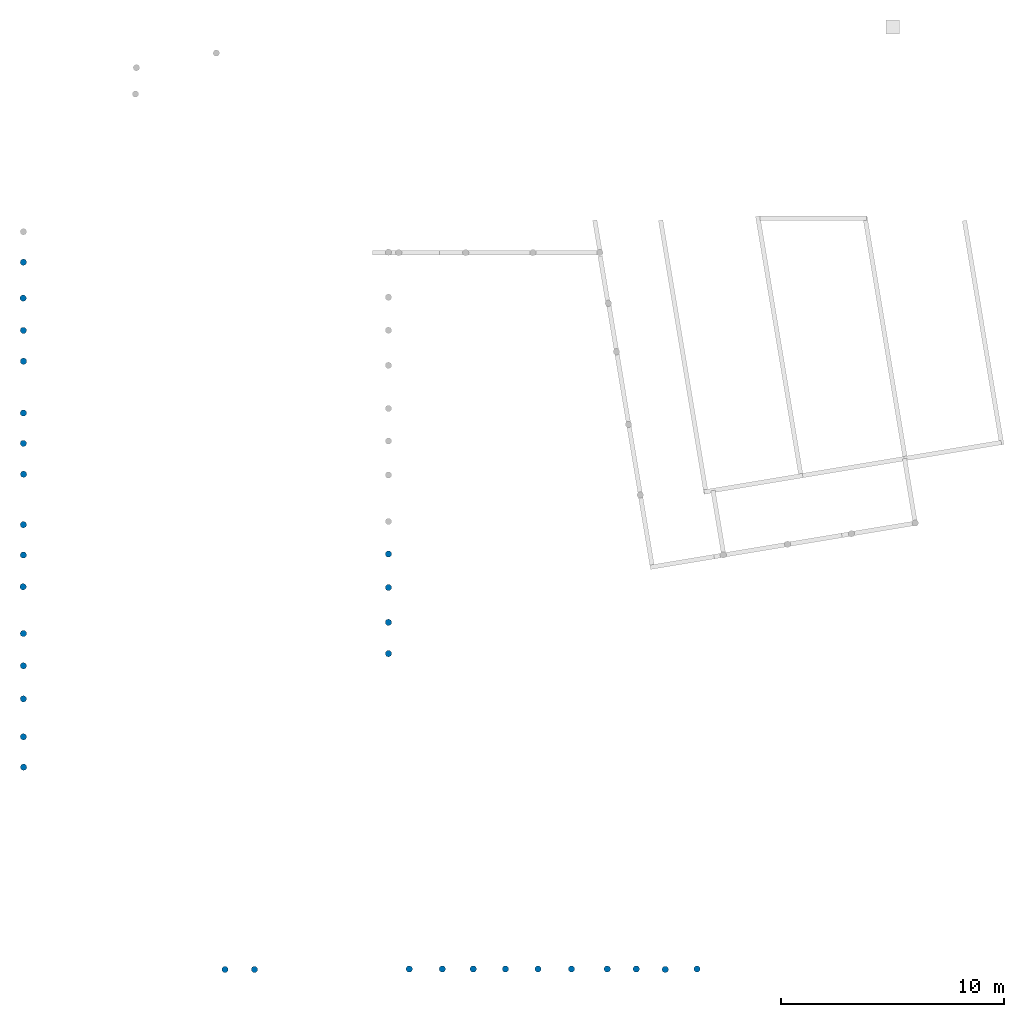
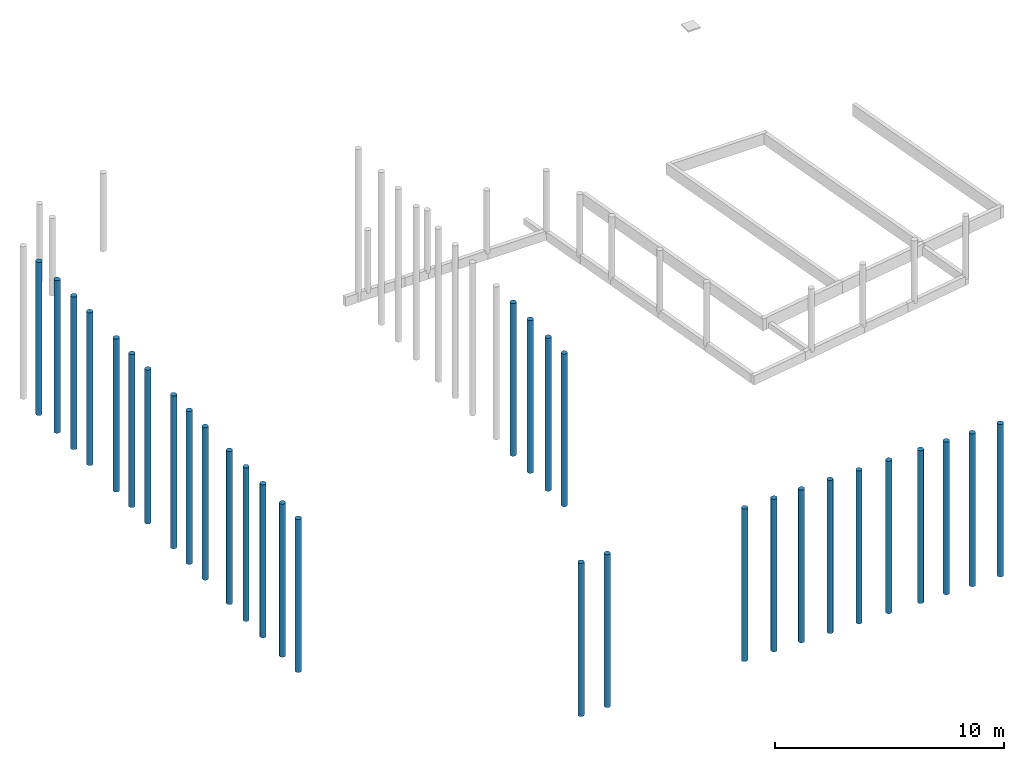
# One storey, part 1 of 4: 31 columns.
"""IFC4 building model written with IfcOpenShell, lengths in metres."""

from ifc_helpers import new_model, entity, si_unit, converted_unit, derived_unit, direction, frame, origin, place, context, subcontext, project, spatial, arc, indexed_curve, outline, extrude, source, transform, mapped, material, type_object, type_shapes, element, save


model = new_model("IFC4")

# Units and contexts
model_context = context("Model", 3, precision=1e-05, world=origin(), true_north=direction((6.123031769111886e-17, 1.0)))
body_context = subcontext(model_context, "Body", "Model", "MODEL_VIEW")
ifc_project = project(units=[si_unit("LENGTHUNIT", "METRE"), si_unit("AREAUNIT", "SQUARE_METRE"), si_unit("VOLUMEUNIT", "CUBIC_METRE"), converted_unit("PLANEANGLEUNIT", "DEGREE", entity("IfcRatioMeasure", 0.017453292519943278), si_unit("PLANEANGLEUNIT", "RADIAN"), dimensions=[0, 0, 0, 0, 0, 0, 0]), si_unit("MASSUNIT", "GRAM", prefix="KILO"), derived_unit("MASSDENSITYUNIT", [(si_unit("MASSUNIT", "GRAM", prefix="KILO"), 1), (si_unit("LENGTHUNIT", "METRE"), -3)]), derived_unit("MOMENTOFINERTIAUNIT", [(si_unit("LENGTHUNIT", "METRE"), 4)]), si_unit("TIMEUNIT", "SECOND"), si_unit("FREQUENCYUNIT", "HERTZ"), si_unit("THERMODYNAMICTEMPERATUREUNIT", "DEGREE_CELSIUS"), derived_unit("THERMALTRANSMITTANCEUNIT", [(si_unit("MASSUNIT", "GRAM", prefix="KILO"), 1), (si_unit("THERMODYNAMICTEMPERATUREUNIT", "KELVIN"), -1), (si_unit("TIMEUNIT", "SECOND"), -3)]), derived_unit("VOLUMETRICFLOWRATEUNIT", [(si_unit("LENGTHUNIT", "METRE"), 3), (si_unit("TIMEUNIT", "SECOND"), -1)]), derived_unit("MASSFLOWRATEUNIT", [(si_unit("MASSUNIT", "GRAM", prefix="KILO"), 1), (si_unit("TIMEUNIT", "SECOND"), -1)]), derived_unit("ROTATIONALFREQUENCYUNIT", [(si_unit("TIMEUNIT", "SECOND"), -1)]), si_unit("ELECTRICCURRENTUNIT", "AMPERE"), si_unit("ELECTRICVOLTAGEUNIT", "VOLT"), si_unit("POWERUNIT", "WATT"), si_unit("FORCEUNIT", "NEWTON", prefix="KILO"), si_unit("ILLUMINANCEUNIT", "LUX"), si_unit("LUMINOUSFLUXUNIT", "LUMEN"), si_unit("LUMINOUSINTENSITYUNIT", "CANDELA"), derived_unit("USERDEFINED", [(si_unit("MASSUNIT", "GRAM", prefix="KILO"), -1), (si_unit("LENGTHUNIT", "METRE"), -2), (si_unit("TIMEUNIT", "SECOND"), 3), (si_unit("LUMINOUSFLUXUNIT", "LUMEN"), 1)]), derived_unit("SOUNDPOWERUNIT", [(si_unit("MASSUNIT", "GRAM", prefix="KILO"), 1), (si_unit("LENGTHUNIT", "METRE"), 2), (si_unit("TIMEUNIT", "SECOND"), -3)]), derived_unit("SOUNDPRESSUREUNIT", [(si_unit("MASSUNIT", "GRAM", prefix="KILO"), 1), (si_unit("LENGTHUNIT", "METRE"), -1), (si_unit("TIMEUNIT", "SECOND"), -2)]), derived_unit("LINEARVELOCITYUNIT", [(si_unit("LENGTHUNIT", "METRE"), 1), (si_unit("TIMEUNIT", "SECOND"), -1)]), si_unit("PRESSUREUNIT", "PASCAL"), derived_unit("USERDEFINED", [(si_unit("LENGTHUNIT", "METRE"), -2), (si_unit("MASSUNIT", "GRAM", prefix="KILO"), 1), (si_unit("TIMEUNIT", "SECOND"), -2)]), derived_unit("LINEARFORCEUNIT", [(si_unit("MASSUNIT", "GRAM", prefix="KILO"), 1), (si_unit("LENGTHUNIT", "METRE"), 1), (si_unit("TIMEUNIT", "SECOND"), -2), (si_unit("LENGTHUNIT", "METRE"), -1)]), derived_unit("PLANARFORCEUNIT", [(si_unit("MASSUNIT", "GRAM", prefix="KILO"), 1), (si_unit("LENGTHUNIT", "METRE"), 1), (si_unit("TIMEUNIT", "SECOND"), -2), (si_unit("LENGTHUNIT", "METRE"), -2)])], contexts=[model_context])

# Site, building, storey
site_placement = place(None, origin())
site = spatial("IfcSite", under=ifc_project, at=site_placement, Name="Default", CompositionType="ELEMENT")
building_placement = place(site_placement, origin())
building = spatial("IfcBuilding", under=site, at=building_placement, CompositionType="ELEMENT")
storey_placement = place(building_placement, frame((0.0, 0.0, -0.63)))
storey = spatial("IfcBuildingStorey", under=building, at=storey_placement, Name="Arase inf longrines", CompositionType="ELEMENT", Elevation=-0.63)

# Columns
ifc_material = material(Name="Maçonnerie - Béton", Category="Béton")
column_type_1 = type_object("IfcColumnType", Name="Poteaux support métallique21:Poteaux support métallique", PredefinedType="COLUMN", material=ifc_material)
shared_shape_1 = source(origin(), body_context, "Body", "SweptSolid", [
    extrude(outline(indexed_curve([(0.14142135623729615, 0.0), (1.0828671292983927e-15, 0.14142135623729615), (-0.14142135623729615, 0.0), (0.0, -0.14142135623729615)], segments=[arc(1, 2, 3), arc(3, 4, 1)], self_intersect=False)), frame((-6.983450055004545, 9.159106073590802, -0.6249275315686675), z_axis=(0.0, 0.0, 1.0), x_axis=(-1.0, 0.0, 0.0)), (0.0, 0.0, 1.0), 8.13319627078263),
])
type_shapes(column_type_1, [shared_shape_1])
column_1_placement = place(storey_placement, frame((-3.460000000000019, -13.49999999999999, 0.63)))
element("IfcColumn", 1, at=column_1_placement, inside=storey, type_object=column_type_1, material=ifc_material, Name="Poteaux support métallique21:Poteaux support métallique", ObjectType="Poteaux support métallique21:Poteaux support métallique", PredefinedType="COLUMN", context=body_context, shape_type="MappedRepresentation", body=[
    mapped(shared_shape_1, transform((0.0, 0.0, 0.0), scale=1.0)),
])
column_type_2 = type_object("IfcColumnType", Name="Poteaux support métallique22:Poteaux support métallique", PredefinedType="COLUMN", material=ifc_material)
shared_shape_2 = source(origin(), body_context, "Body", "SweptSolid", [
    extrude(outline(indexed_curve([(0.14142135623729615, 0.0), (1.0828671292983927e-15, 0.14142135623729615), (-0.14142135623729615, 0.0), (0.0, -0.14142135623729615)], segments=[arc(1, 2, 3), arc(3, 4, 1)], self_intersect=False)), frame((-6.983450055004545, 9.159106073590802, -0.6249275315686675), z_axis=(0.0, 0.0, 1.0), x_axis=(-1.0, 0.0, 0.0)), (0.0, 0.0, 1.0), 8.134138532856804),
])
type_shapes(column_type_2, [shared_shape_2])
column_2_placement = place(storey_placement, frame((-3.4600000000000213, -15.0, 0.63)))
element("IfcColumn", 2, at=column_2_placement, inside=storey, type_object=column_type_2, material=ifc_material, Name="Poteaux support métallique22:Poteaux support métallique", ObjectType="Poteaux support métallique22:Poteaux support métallique", PredefinedType="COLUMN", context=body_context, shape_type="MappedRepresentation", body=[
    mapped(shared_shape_2, transform((0.0, 0.0, 0.0), scale=1.0)),
])
column_type_3 = type_object("IfcColumnType", Name="Poteaux support métallique23:Poteaux support métallique", PredefinedType="COLUMN", material=ifc_material)
shared_shape_3 = source(origin(), body_context, "Body", "SweptSolid", [
    extrude(outline(indexed_curve([(0.14142135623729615, 0.0), (1.0828671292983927e-15, 0.14142135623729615), (-0.14142135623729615, 0.0), (0.0, -0.14142135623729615)], segments=[arc(1, 2, 3), arc(3, 4, 1)], self_intersect=False)), frame((-6.983450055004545, 9.159106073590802, -0.6359671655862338), z_axis=(0.0, 0.0, 1.0), x_axis=(-1.0, 0.0, 0.0)), (0.0, 0.0, 1.0), 8.148295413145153),
])
type_shapes(column_type_3, [shared_shape_3])
column_3_placement = place(storey_placement, frame((-3.4600000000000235, -16.55999999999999, 0.63)))
element("IfcColumn", 3, at=column_3_placement, inside=storey, type_object=column_type_3, material=ifc_material, Name="Poteaux support métallique23:Poteaux support métallique", ObjectType="Poteaux support métallique23:Poteaux support métallique", PredefinedType="COLUMN", context=body_context, shape_type="MappedRepresentation", body=[
    mapped(shared_shape_3, transform((0.0, 0.0, 0.0), scale=1.0)),
])
column_type_4 = type_object("IfcColumnType", Name="Poteaux support métallique28:Poteaux support métallique", PredefinedType="COLUMN", material=ifc_material)
shared_shape_4 = source(origin(), body_context, "Body", "SweptSolid", [
    extrude(outline(indexed_curve([(0.14142135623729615, 0.0), (1.0828671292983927e-15, 0.14142135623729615), (-0.14142135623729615, 0.0), (0.0, -0.14142135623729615)], segments=[arc(1, 2, 3), arc(3, 4, 1)], self_intersect=False)), frame((-6.983450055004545, 9.159106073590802, -0.656386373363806), z_axis=(0.0, 0.0, 1.0), x_axis=(-1.0, 0.0, 0.0)), (0.0, 0.0, 1.0), 8.15699156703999),
])
type_shapes(column_type_4, [shared_shape_4])
column_4_placement = place(storey_placement, frame((-19.810000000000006, -0.42999999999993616, 0.63)))
element("IfcColumn", 4, at=column_4_placement, inside=storey, type_object=column_type_4, material=ifc_material, Name="Poteaux support métallique28:Poteaux support métallique", ObjectType="Poteaux support métallique28:Poteaux support métallique", PredefinedType="COLUMN", context=body_context, shape_type="MappedRepresentation", body=[
    mapped(shared_shape_4, transform((0.0, 0.0, 0.0), scale=1.0)),
])
column_type_5 = type_object("IfcColumnType", Name="Poteaux support métallique29:Poteaux support métallique", PredefinedType="COLUMN", material=ifc_material)
shared_shape_5 = source(origin(), body_context, "Body", "SweptSolid", [
    extrude(outline(indexed_curve([(0.14142135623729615, 0.0), (1.0828671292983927e-15, 0.14142135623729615), (-0.14142135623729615, 0.0), (0.0, -0.14142135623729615)], segments=[arc(1, 2, 3), arc(3, 4, 1)], self_intersect=False)), frame((-6.983450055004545, 9.159106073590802, -0.6233154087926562), z_axis=(0.0, 0.0, 1.0), x_axis=(-1.0, 0.0, 0.0)), (0.0, 0.0, 1.0), 8.13043848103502),
])
type_shapes(column_type_5, [shared_shape_5])
column_5_placement = place(storey_placement, frame((-19.820000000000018, -2.0399999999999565, 0.63)))
element("IfcColumn", 5, at=column_5_placement, inside=storey, type_object=column_type_5, material=ifc_material, Name="Poteaux support métallique29:Poteaux support métallique", ObjectType="Poteaux support métallique29:Poteaux support métallique", PredefinedType="COLUMN", context=body_context, shape_type="MappedRepresentation", body=[
    mapped(shared_shape_5, transform((0.0, 0.0, 0.0), scale=1.0)),
])
column_type_6 = type_object("IfcColumnType", Name="Poteaux support métallique30:Poteaux support métallique", PredefinedType="COLUMN", material=ifc_material)
shared_shape_6 = source(origin(), body_context, "Body", "SweptSolid", [
    extrude(outline(indexed_curve([(0.14142135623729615, 0.0), (1.0828671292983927e-15, 0.14142135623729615), (-0.14142135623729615, 0.0), (0.0, -0.14142135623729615)], segments=[arc(1, 2, 3), arc(3, 4, 1)], self_intersect=False)), frame((-6.983450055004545, 9.159106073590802, -0.6233154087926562), z_axis=(0.0, 0.0, 1.0), x_axis=(-1.0, 0.0, 0.0)), (0.0, 0.0, 1.0), 8.13043848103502),
])
type_shapes(column_type_6, [shared_shape_6])
column_6_placement = place(storey_placement, frame((-19.81000000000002, -3.484999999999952, 0.63)))
element("IfcColumn", 6, at=column_6_placement, inside=storey, type_object=column_type_6, material=ifc_material, Name="Poteaux support métallique30:Poteaux support métallique", ObjectType="Poteaux support métallique30:Poteaux support métallique", PredefinedType="COLUMN", context=body_context, shape_type="MappedRepresentation", body=[
    mapped(shared_shape_6, transform((0.0, 0.0, 0.0), scale=1.0)),
])
column_type_7 = type_object("IfcColumnType", Name="Poteaux support métallique31:Poteaux support métallique", PredefinedType="COLUMN", material=ifc_material)
shared_shape_7 = source(origin(), body_context, "Body", "SweptSolid", [
    extrude(outline(indexed_curve([(0.14142135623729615, 0.0), (1.0828671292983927e-15, 0.14142135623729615), (-0.14142135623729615, 0.0), (0.0, -0.14142135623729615)], segments=[arc(1, 2, 3), arc(3, 4, 1)], self_intersect=False)), frame((-6.983450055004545, 9.159106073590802, -0.6343390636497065), z_axis=(0.0, 0.0, 1.0), x_axis=(-1.0, 0.0, 0.0)), (0.0, 0.0, 1.0), 8.13696101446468),
])
type_shapes(column_type_7, [shared_shape_7])
column_7_placement = place(storey_placement, frame((-19.805000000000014, -4.864999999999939, 0.63)))
element("IfcColumn", 7, at=column_7_placement, inside=storey, type_object=column_type_7, material=ifc_material, Name="Poteaux support métallique31:Poteaux support métallique", ObjectType="Poteaux support métallique31:Poteaux support métallique", PredefinedType="COLUMN", context=body_context, shape_type="MappedRepresentation", body=[
    mapped(shared_shape_7, transform((0.0, 0.0, 0.0), scale=1.0)),
])
column_type_8 = type_object("IfcColumnType", Name="Poteaux support métallique32:Poteaux support métallique", PredefinedType="COLUMN", material=ifc_material)
shared_shape_8 = source(origin(), body_context, "Body", "SweptSolid", [
    extrude(outline(indexed_curve([(0.14142135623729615, 0.0), (1.0828671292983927e-15, 0.14142135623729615), (-0.14142135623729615, 0.0), (0.0, -0.14142135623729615)], segments=[arc(1, 2, 3), arc(3, 4, 1)], self_intersect=False)), frame((-6.983450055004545, 9.159106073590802, -0.6410634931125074), z_axis=(0.0, 0.0, 1.0), x_axis=(-1.0, 0.0, 0.0)), (0.0, 0.0, 1.0), 8.149463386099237),
])
type_shapes(column_type_8, [shared_shape_8])
column_8_placement = place(storey_placement, frame((-19.810000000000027, -7.184999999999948, 0.63)))
element("IfcColumn", 8, at=column_8_placement, inside=storey, type_object=column_type_8, material=ifc_material, Name="Poteaux support métallique32:Poteaux support métallique", ObjectType="Poteaux support métallique32:Poteaux support métallique", PredefinedType="COLUMN", context=body_context, shape_type="MappedRepresentation", body=[
    mapped(shared_shape_8, transform((0.0, 0.0, 0.0), scale=1.0)),
])
column_type_9 = type_object("IfcColumnType", Name="Poteaux support métallique33:Poteaux support métallique", PredefinedType="COLUMN", material=ifc_material)
shared_shape_9 = source(origin(), body_context, "Body", "SweptSolid", [
    extrude(outline(indexed_curve([(0.14142135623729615, 0.0), (1.0828671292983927e-15, 0.14142135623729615), (-0.14142135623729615, 0.0), (0.0, -0.14142135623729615)], segments=[arc(1, 2, 3), arc(3, 4, 1)], self_intersect=False)), frame((-6.983450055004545, 9.159106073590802, -0.6410634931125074), z_axis=(0.0, 0.0, 1.0), x_axis=(-1.0, 0.0, 0.0)), (0.0, 0.0, 1.0), 8.147195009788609),
])
type_shapes(column_type_9, [shared_shape_9])
column_9_placement = place(storey_placement, frame((-19.810000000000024, -8.544999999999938, 0.63)))
element("IfcColumn", 9, at=column_9_placement, inside=storey, type_object=column_type_9, material=ifc_material, Name="Poteaux support métallique33:Poteaux support métallique", ObjectType="Poteaux support métallique33:Poteaux support métallique", PredefinedType="COLUMN", context=body_context, shape_type="MappedRepresentation", body=[
    mapped(shared_shape_9, transform((0.0, 0.0, 0.0), scale=1.0)),
])
column_type_10 = type_object("IfcColumnType", Name="Poteaux support métallique34:Poteaux support métallique", PredefinedType="COLUMN", material=ifc_material)
shared_shape_10 = source(origin(), body_context, "Body", "SweptSolid", [
    extrude(outline(indexed_curve([(0.14142135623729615, 0.0), (1.0828671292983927e-15, 0.14142135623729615), (-0.14142135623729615, 0.0), (0.0, -0.14142135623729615)], segments=[arc(1, 2, 3), arc(3, 4, 1)], self_intersect=False)), frame((-6.983450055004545, 9.159106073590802, -0.6847998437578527), z_axis=(0.0, 0.0, 1.0), x_axis=(-1.0, 0.0, 0.0)), (0.0, 0.0, 1.0), 8.195216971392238),
])
type_shapes(column_type_10, [shared_shape_10])
column_10_placement = place(storey_placement, frame((-19.800000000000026, -9.924999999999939, 0.63)))
element("IfcColumn", 10, at=column_10_placement, inside=storey, type_object=column_type_10, material=ifc_material, Name="Poteaux support métallique34:Poteaux support métallique", ObjectType="Poteaux support métallique34:Poteaux support métallique", PredefinedType="COLUMN", context=body_context, shape_type="MappedRepresentation", body=[
    mapped(shared_shape_10, transform((0.0, 0.0, 0.0), scale=1.0)),
])
column_type_11 = type_object("IfcColumnType", Name="Poteaux support métallique35:Poteaux support métallique", PredefinedType="COLUMN", material=ifc_material)
shared_shape_11 = source(origin(), body_context, "Body", "SweptSolid", [
    extrude(outline(indexed_curve([(0.14142135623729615, 0.0), (1.0828671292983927e-15, 0.14142135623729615), (-0.14142135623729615, 0.0), (0.0, -0.14142135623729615)], segments=[arc(1, 2, 3), arc(3, 4, 1)], self_intersect=False)), frame((-6.983450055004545, 9.159106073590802, -0.6264847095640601), z_axis=(0.0, 0.0, 1.0), x_axis=(-1.0, 0.0, 0.0)), (0.0, 0.0, 1.0), 8.136526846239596),
])
type_shapes(column_type_11, [shared_shape_11])
column_11_placement = place(storey_placement, frame((-19.81000000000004, -12.18499999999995, 0.63)))
element("IfcColumn", 11, at=column_11_placement, inside=storey, type_object=column_type_11, material=ifc_material, Name="Poteaux support métallique35:Poteaux support métallique", ObjectType="Poteaux support métallique35:Poteaux support métallique", PredefinedType="COLUMN", context=body_context, shape_type="MappedRepresentation", body=[
    mapped(shared_shape_11, transform((0.0, 0.0, 0.0), scale=1.0)),
])
column_type_12 = type_object("IfcColumnType", Name="Poteaux support métallique36:Poteaux support métallique", PredefinedType="COLUMN", material=ifc_material)
shared_shape_12 = source(origin(), body_context, "Body", "SweptSolid", [
    extrude(outline(indexed_curve([(0.14142135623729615, 0.0), (1.0828671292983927e-15, 0.14142135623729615), (-0.14142135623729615, 0.0), (0.0, -0.14142135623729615)], segments=[arc(1, 2, 3), arc(3, 4, 1)], self_intersect=False)), frame((-6.983450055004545, 9.159106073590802, -0.6410634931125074), z_axis=(0.0, 0.0, 1.0), x_axis=(-1.0, 0.0, 0.0)), (0.0, 0.0, 1.0), 8.14839518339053),
])
type_shapes(column_type_12, [shared_shape_12])
column_12_placement = place(storey_placement, frame((-19.810000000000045, -13.544999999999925, 0.63)))
element("IfcColumn", 12, at=column_12_placement, inside=storey, type_object=column_type_12, material=ifc_material, Name="Poteaux support métallique36:Poteaux support métallique", ObjectType="Poteaux support métallique36:Poteaux support métallique", PredefinedType="COLUMN", context=body_context, shape_type="MappedRepresentation", body=[
    mapped(shared_shape_12, transform((0.0, 0.0, 0.0), scale=1.0)),
])
column_type_13 = type_object("IfcColumnType", Name="Poteaux support métallique37:Poteaux support métallique", PredefinedType="COLUMN", material=ifc_material)
shared_shape_13 = source(origin(), body_context, "Body", "SweptSolid", [
    extrude(outline(indexed_curve([(0.14142135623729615, 0.0), (1.0828671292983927e-15, 0.14142135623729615), (-0.14142135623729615, 0.0), (0.0, -0.14142135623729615)], segments=[arc(1, 2, 3), arc(3, 4, 1)], self_intersect=False)), frame((-6.983450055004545, 9.159106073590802, -0.6119059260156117), z_axis=(0.0, 0.0, 1.0), x_axis=(-1.0, 0.0, 0.0)), (0.0, 0.0, 1.0), 8.121668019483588),
])
type_shapes(column_type_13, [shared_shape_13])
column_13_placement = place(storey_placement, frame((-19.82000000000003, -14.96499999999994, 0.63)))
element("IfcColumn", 13, at=column_13_placement, inside=storey, type_object=column_type_13, material=ifc_material, Name="Poteaux support métallique37:Poteaux support métallique", ObjectType="Poteaux support métallique37:Poteaux support métallique", PredefinedType="COLUMN", context=body_context, shape_type="MappedRepresentation", body=[
    mapped(shared_shape_13, transform((0.0, 0.0, 0.0), scale=1.0)),
])
column_type_14 = type_object("IfcColumnType", Name="Poteaux support métallique38:Poteaux support métallique", PredefinedType="COLUMN", material=ifc_material)
shared_shape_14 = source(origin(), body_context, "Body", "SweptSolid", [
    extrude(outline(indexed_curve([(0.14142135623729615, 0.0), (1.0828671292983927e-15, 0.14142135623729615), (-0.14142135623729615, 0.0), (0.0, -0.14142135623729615)], segments=[arc(1, 2, 3), arc(3, 4, 1)], self_intersect=False)), frame((-6.983450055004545, 9.159106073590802, -0.64420461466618), z_axis=(0.0, 0.0, 1.0), x_axis=(-1.0, 0.0, 0.0)), (0.0, 0.0, 1.0), 8.150295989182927),
])
type_shapes(column_type_14, [shared_shape_14])
column_14_placement = place(storey_placement, frame((-19.810000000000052, -17.05999999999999, 0.63)))
element("IfcColumn", 14, at=column_14_placement, inside=storey, type_object=column_type_14, material=ifc_material, Name="Poteaux support métallique38:Poteaux support métallique", ObjectType="Poteaux support métallique38:Poteaux support métallique", PredefinedType="COLUMN", context=body_context, shape_type="MappedRepresentation", body=[
    mapped(shared_shape_14, transform((0.0, 0.0, 0.0), scale=1.0)),
])
column_type_15 = type_object("IfcColumnType", Name="Poteaux support métallique39:Poteaux support métallique", PredefinedType="COLUMN", material=ifc_material)
shared_shape_15 = source(origin(), body_context, "Body", "SweptSolid", [
    extrude(outline(indexed_curve([(0.14142135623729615, 0.0), (1.0828671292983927e-15, 0.14142135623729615), (-0.14142135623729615, 0.0), (0.0, -0.14142135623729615)], segments=[arc(1, 2, 3), arc(3, 4, 1)], self_intersect=False)), frame((-6.983450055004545, 9.159106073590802, -0.6609702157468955), z_axis=(0.0, 0.0, 1.0), x_axis=(-1.0, 0.0, 0.0)), (0.0, 0.0, 1.0), 8.166317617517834),
])
type_shapes(column_type_15, [shared_shape_15])
column_15_placement = place(storey_placement, frame((-19.81000000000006, -18.504999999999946, 0.63)))
element("IfcColumn", 15, at=column_15_placement, inside=storey, type_object=column_type_15, material=ifc_material, Name="Poteaux support métallique39:Poteaux support métallique", ObjectType="Poteaux support métallique39:Poteaux support métallique", PredefinedType="COLUMN", context=body_context, shape_type="MappedRepresentation", body=[
    mapped(shared_shape_15, transform((0.0, 0.0, 0.0), scale=1.0)),
])
column_type_16 = type_object("IfcColumnType", Name="Poteaux support métallique40:Poteaux support métallique", PredefinedType="COLUMN", material=ifc_material)
shared_shape_16 = source(origin(), body_context, "Body", "SweptSolid", [
    extrude(outline(indexed_curve([(0.14142135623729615, 0.0), (1.0828671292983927e-15, 0.14142135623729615), (-0.14142135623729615, 0.0), (0.0, -0.14142135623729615)], segments=[arc(1, 2, 3), arc(3, 4, 1)], self_intersect=False)), frame((-6.983450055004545, 9.159106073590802, -0.64420461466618), z_axis=(0.0, 0.0, 1.0), x_axis=(-1.0, 0.0, 0.0)), (0.0, 0.0, 1.0), 8.153278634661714),
])
type_shapes(column_type_16, [shared_shape_16])
column_16_placement = place(storey_placement, frame((-19.810000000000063, -19.984999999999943, 0.63)))
element("IfcColumn", 16, at=column_16_placement, inside=storey, type_object=column_type_16, material=ifc_material, Name="Poteaux support métallique40:Poteaux support métallique", ObjectType="Poteaux support métallique40:Poteaux support métallique", PredefinedType="COLUMN", context=body_context, shape_type="MappedRepresentation", body=[
    mapped(shared_shape_16, transform((0.0, 0.0, 0.0), scale=1.0)),
])
column_type_17 = type_object("IfcColumnType", Name="Poteaux support métallique42:Poteaux support métallique", PredefinedType="COLUMN", material=ifc_material)
shared_shape_17 = source(origin(), body_context, "Body", "SweptSolid", [
    extrude(outline(indexed_curve([(0.14142135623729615, 0.0), (1.0828671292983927e-15, 0.14142135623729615), (-0.14142135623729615, 0.0), (0.0, -0.14142135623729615)], segments=[arc(1, 2, 3), arc(3, 4, 1)], self_intersect=False)), frame((-6.983450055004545, 9.159106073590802, -0.6485316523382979), z_axis=(0.0, 0.0, 1.0), x_axis=(-1.0, 0.0, 0.0)), (0.0, 0.0, 1.0), 8.15907806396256),
])
type_shapes(column_type_17, [shared_shape_17])
column_17_placement = place(storey_placement, frame((-10.780000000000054, -32.10499999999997, 0.63)))
element("IfcColumn", 17, at=column_17_placement, inside=storey, type_object=column_type_17, material=ifc_material, Name="Poteaux support métallique42:Poteaux support métallique", ObjectType="Poteaux support métallique42:Poteaux support métallique", PredefinedType="COLUMN", context=body_context, shape_type="MappedRepresentation", body=[
    mapped(shared_shape_17, transform((0.0, 0.0, 0.0), scale=1.0)),
])
column_type_18 = type_object("IfcColumnType", Name="Poteaux support métallique43:Poteaux support métallique", PredefinedType="COLUMN", material=ifc_material)
shared_shape_18 = source(origin(), body_context, "Body", "SweptSolid", [
    extrude(outline(indexed_curve([(0.14142135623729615, 0.0), (1.0828671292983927e-15, 0.14142135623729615), (-0.14142135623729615, 0.0), (0.0, -0.14142135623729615)], segments=[arc(1, 2, 3), arc(3, 4, 1)], self_intersect=False)), frame((-6.983450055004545, 9.159106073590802, -0.633992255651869), z_axis=(0.0, 0.0, 1.0), x_axis=(-1.0, 0.0, 0.0)), (0.0, 0.0, 1.0), 8.14541743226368),
])
type_shapes(column_type_18, [shared_shape_18])
column_18_placement = place(storey_placement, frame((-9.460000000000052, -32.104999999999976, 0.63)))
element("IfcColumn", 18, at=column_18_placement, inside=storey, type_object=column_type_18, material=ifc_material, Name="Poteaux support métallique43:Poteaux support métallique", ObjectType="Poteaux support métallique43:Poteaux support métallique", PredefinedType="COLUMN", context=body_context, shape_type="MappedRepresentation", body=[
    mapped(shared_shape_18, transform((0.0, 0.0, 0.0), scale=1.0)),
])
column_type_19 = type_object("IfcColumnType", Name="Poteaux support métallique45:Poteaux support métallique", PredefinedType="COLUMN", material=ifc_material)
shared_shape_19 = source(origin(), body_context, "Body", "SweptSolid", [
    extrude(outline(indexed_curve([(0.14142135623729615, 0.0), (1.0828671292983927e-15, 0.14142135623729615), (-0.14142135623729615, 0.0), (0.0, -0.14142135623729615)], segments=[arc(1, 2, 3), arc(3, 4, 1)], self_intersect=False)), frame((-6.983450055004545, 9.159106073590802, -0.6228523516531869), z_axis=(0.0, 0.0, 1.0), x_axis=(-1.0, 0.0, 0.0)), (0.0, 0.0, 1.0), 8.133455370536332),
])
type_shapes(column_type_19, [shared_shape_19])
column_19_placement = place(storey_placement, frame((-2.530000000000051, -32.084999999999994, 0.63)))
element("IfcColumn", 19, at=column_19_placement, inside=storey, type_object=column_type_19, material=ifc_material, Name="Poteaux support métallique45:Poteaux support métallique", ObjectType="Poteaux support métallique45:Poteaux support métallique", PredefinedType="COLUMN", context=body_context, shape_type="MappedRepresentation", body=[
    mapped(shared_shape_19, transform((0.0, 0.0, 0.0), scale=1.0)),
])
column_type_20 = type_object("IfcColumnType", Name="Poteaux support métallique46:Poteaux support métallique", PredefinedType="COLUMN", material=ifc_material)
shared_shape_20 = source(origin(), body_context, "Body", "SweptSolid", [
    extrude(outline(indexed_curve([(0.14142135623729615, 0.0), (1.0828671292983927e-15, 0.14142135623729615), (-0.14142135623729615, 0.0), (0.0, -0.14142135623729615)], segments=[arc(1, 2, 3), arc(3, 4, 1)], self_intersect=False)), frame((-6.983450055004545, 9.159106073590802, -0.6228523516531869), z_axis=(0.0, 0.0, 1.0), x_axis=(-1.0, 0.0, 0.0)), (0.0, 0.0, 1.0), 8.130030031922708),
])
type_shapes(column_type_20, [shared_shape_20])
column_20_placement = place(storey_placement, frame((-1.0479513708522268, -32.084592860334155, 0.63)))
element("IfcColumn", 20, at=column_20_placement, inside=storey, type_object=column_type_20, material=ifc_material, Name="Poteaux support métallique46:Poteaux support métallique", ObjectType="Poteaux support métallique46:Poteaux support métallique", PredefinedType="COLUMN", context=body_context, shape_type="MappedRepresentation", body=[
    mapped(shared_shape_20, transform((0.0, 0.0, 0.0), scale=1.0)),
])
column_type_21 = type_object("IfcColumnType", Name="Poteaux support métallique47:Poteaux support métallique", PredefinedType="COLUMN", material=ifc_material)
shared_shape_21 = source(origin(), body_context, "Body", "SweptSolid", [
    extrude(outline(indexed_curve([(0.14142135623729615, 0.0), (1.0828671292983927e-15, 0.14142135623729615), (-0.14142135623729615, 0.0), (0.0, -0.14142135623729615)], segments=[arc(1, 2, 3), arc(3, 4, 1)], self_intersect=False)), frame((-6.983450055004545, 9.159106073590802, -0.6228523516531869), z_axis=(0.0, 0.0, 1.0), x_axis=(-1.0, 0.0, 0.0)), (0.0, 0.0, 1.0), 8.131802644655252),
])
type_shapes(column_type_21, [shared_shape_21])
column_21_placement = place(storey_placement, frame((0.3370486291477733, -32.08459286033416, 0.63)))
element("IfcColumn", 21, at=column_21_placement, inside=storey, type_object=column_type_21, material=ifc_material, Name="Poteaux support métallique47:Poteaux support métallique", ObjectType="Poteaux support métallique47:Poteaux support métallique", PredefinedType="COLUMN", context=body_context, shape_type="MappedRepresentation", body=[
    mapped(shared_shape_21, transform((0.0, 0.0, 0.0), scale=1.0)),
])
column_type_22 = type_object("IfcColumnType", Name="Poteaux support métallique48:Poteaux support métallique", PredefinedType="COLUMN", material=ifc_material)
shared_shape_22 = source(origin(), body_context, "Body", "SweptSolid", [
    extrude(outline(indexed_curve([(0.14142135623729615, 0.0), (1.0828671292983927e-15, 0.14142135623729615), (-0.14142135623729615, 0.0), (0.0, -0.14142135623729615)], segments=[arc(1, 2, 3), arc(3, 4, 1)], self_intersect=False)), frame((-6.983450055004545, 9.159106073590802, -0.6339086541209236), z_axis=(0.0, 0.0, 1.0), x_axis=(-1.0, 0.0, 0.0)), (0.0, 0.0, 1.0), 8.144092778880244),
])
type_shapes(column_type_22, [shared_shape_22])
column_22_placement = place(storey_placement, frame((1.7770486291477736, -32.08459286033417, 0.63)))
element("IfcColumn", 22, at=column_22_placement, inside=storey, type_object=column_type_22, material=ifc_material, Name="Poteaux support métallique48:Poteaux support métallique", ObjectType="Poteaux support métallique48:Poteaux support métallique", PredefinedType="COLUMN", context=body_context, shape_type="MappedRepresentation", body=[
    mapped(shared_shape_22, transform((0.0, 0.0, 0.0), scale=1.0)),
])
column_type_23 = type_object("IfcColumnType", Name="Poteaux support métallique49:Poteaux support métallique", PredefinedType="COLUMN", material=ifc_material)
shared_shape_23 = source(origin(), body_context, "Body", "SweptSolid", [
    extrude(outline(indexed_curve([(0.14142135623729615, 0.0), (1.0828671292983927e-15, 0.14142135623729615), (-0.14142135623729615, 0.0), (0.0, -0.14142135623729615)], segments=[arc(1, 2, 3), arc(3, 4, 1)], self_intersect=False)), frame((-6.983450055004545, 9.159106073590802, -0.6339086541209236), z_axis=(0.0, 0.0, 1.0), x_axis=(-1.0, 0.0, 0.0)), (0.0, 0.0, 1.0), 8.142894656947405),
])
type_shapes(column_type_23, [shared_shape_23])
column_23_placement = place(storey_placement, frame((3.2370486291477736, -32.08459286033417, 0.63)))
element("IfcColumn", 23, at=column_23_placement, inside=storey, type_object=column_type_23, material=ifc_material, Name="Poteaux support métallique49:Poteaux support métallique", ObjectType="Poteaux support métallique49:Poteaux support métallique", PredefinedType="COLUMN", context=body_context, shape_type="MappedRepresentation", body=[
    mapped(shared_shape_23, transform((0.0, 0.0, 0.0), scale=1.0)),
])
column_type_24 = type_object("IfcColumnType", Name="Poteaux support métallique50:Poteaux support métallique", PredefinedType="COLUMN", material=ifc_material)
shared_shape_24 = source(origin(), body_context, "Body", "SweptSolid", [
    extrude(outline(indexed_curve([(0.14142135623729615, 0.0), (1.0828671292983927e-15, 0.14142135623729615), (-0.14142135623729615, 0.0), (0.0, -0.14142135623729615)], segments=[arc(1, 2, 3), arc(3, 4, 1)], self_intersect=False)), frame((-6.983450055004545, 9.159106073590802, -0.6178493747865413), z_axis=(0.0, 0.0, 1.0), x_axis=(-1.0, 0.0, 0.0)), (0.0, 0.0, 1.0), 8.127395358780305),
])
type_shapes(column_type_24, [shared_shape_24])
column_24_placement = place(storey_placement, frame((4.737048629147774, -32.084592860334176, 0.63)))
element("IfcColumn", 24, at=column_24_placement, inside=storey, type_object=column_type_24, material=ifc_material, Name="Poteaux support métallique50:Poteaux support métallique", ObjectType="Poteaux support métallique50:Poteaux support métallique", PredefinedType="COLUMN", context=body_context, shape_type="MappedRepresentation", body=[
    mapped(shared_shape_24, transform((0.0, 0.0, 0.0), scale=1.0)),
])
column_type_25 = type_object("IfcColumnType", Name="Poteaux support métallique51:Poteaux support métallique", PredefinedType="COLUMN", material=ifc_material)
shared_shape_25 = source(origin(), body_context, "Body", "SweptSolid", [
    extrude(outline(indexed_curve([(0.14142135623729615, 0.0), (1.0828671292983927e-15, 0.14142135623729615), (-0.14142135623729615, 0.0), (0.0, -0.14142135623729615)], segments=[arc(1, 2, 3), arc(3, 4, 1)], self_intersect=False)), frame((-6.983450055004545, 9.159106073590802, -0.6324713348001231), z_axis=(0.0, 0.0, 1.0), x_axis=(-1.0, 0.0, 0.0)), (0.0, 0.0, 1.0), 8.141659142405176),
])
type_shapes(column_type_25, [shared_shape_25])
column_25_placement = place(storey_placement, frame((6.337048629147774, -32.08459286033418, 0.63)))
element("IfcColumn", 25, at=column_25_placement, inside=storey, type_object=column_type_25, material=ifc_material, Name="Poteaux support métallique51:Poteaux support métallique", ObjectType="Poteaux support métallique51:Poteaux support métallique", PredefinedType="COLUMN", context=body_context, shape_type="MappedRepresentation", body=[
    mapped(shared_shape_25, transform((0.0, 0.0, 0.0), scale=1.0)),
])
column_type_26 = type_object("IfcColumnType", Name="Poteaux support métallique52:Poteaux support métallique", PredefinedType="COLUMN", material=ifc_material)
shared_shape_26 = source(origin(), body_context, "Body", "SweptSolid", [
    extrude(outline(indexed_curve([(0.14142135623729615, 0.0), (1.0828671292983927e-15, 0.14142135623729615), (-0.14142135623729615, 0.0), (0.0, -0.14142135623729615)], segments=[arc(1, 2, 3), arc(3, 4, 1)], self_intersect=False)), frame((-6.983450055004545, 9.159106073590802, -0.6195489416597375), z_axis=(0.0, 0.0, 1.0), x_axis=(-1.0, 0.0, 0.0)), (0.0, 0.0, 1.0), 8.131079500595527),
])
type_shapes(column_type_26, [shared_shape_26])
column_26_placement = place(storey_placement, frame((7.637048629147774, -32.08459286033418, 0.63)))
element("IfcColumn", 26, at=column_26_placement, inside=storey, type_object=column_type_26, material=ifc_material, Name="Poteaux support métallique52:Poteaux support métallique", ObjectType="Poteaux support métallique52:Poteaux support métallique", PredefinedType="COLUMN", context=body_context, shape_type="MappedRepresentation", body=[
    mapped(shared_shape_26, transform((0.0, 0.0, 0.0), scale=1.0)),
])
column_type_27 = type_object("IfcColumnType", Name="Poteaux support métallique53:Poteaux support métallique", PredefinedType="COLUMN", material=ifc_material)
shared_shape_27 = source(origin(), body_context, "Body", "SweptSolid", [
    extrude(outline(indexed_curve([(0.14142135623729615, 0.0), (1.0828671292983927e-15, 0.14142135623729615), (-0.14142135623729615, 0.0), (0.0, -0.14142135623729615)], segments=[arc(1, 2, 3), arc(3, 4, 1)], self_intersect=False)), frame((-6.983450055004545, 9.159106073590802, -0.6362692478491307), z_axis=(0.0, 0.0, 1.0), x_axis=(-1.0, 0.0, 0.0)), (0.0, 0.0, 1.0), 8.145770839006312),
])
type_shapes(column_type_27, [shared_shape_27])
column_27_placement = place(storey_placement, frame((8.937048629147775, -32.10459286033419, 0.63)))
element("IfcColumn", 27, at=column_27_placement, inside=storey, type_object=column_type_27, material=ifc_material, Name="Poteaux support métallique53:Poteaux support métallique", ObjectType="Poteaux support métallique53:Poteaux support métallique", PredefinedType="COLUMN", context=body_context, shape_type="MappedRepresentation", body=[
    mapped(shared_shape_27, transform((0.0, 0.0, 0.0), scale=1.0)),
])
column_type_28 = type_object("IfcColumnType", Name="Poteaux support métallique54:Poteaux support métallique", PredefinedType="COLUMN", material=ifc_material)
shared_shape_28 = source(origin(), body_context, "Body", "SweptSolid", [
    extrude(outline(indexed_curve([(0.14142135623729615, 0.0), (1.0828671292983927e-15, 0.14142135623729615), (-0.14142135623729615, 0.0), (0.0, -0.14142135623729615)], segments=[arc(1, 2, 3), arc(3, 4, 1)], self_intersect=False)), frame((-6.983450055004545, 9.159106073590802, -0.6195489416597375), z_axis=(0.0, 0.0, 1.0), x_axis=(-1.0, 0.0, 0.0)), (0.0, 0.0, 1.0), 8.121798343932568),
])
type_shapes(column_type_28, [shared_shape_28])
column_28_placement = place(storey_placement, frame((10.357048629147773, -32.08459286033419, 0.63)))
element("IfcColumn", 28, at=column_28_placement, inside=storey, type_object=column_type_28, material=ifc_material, Name="Poteaux support métallique54:Poteaux support métallique", ObjectType="Poteaux support métallique54:Poteaux support métallique", PredefinedType="COLUMN", context=body_context, shape_type="MappedRepresentation", body=[
    mapped(shared_shape_28, transform((0.0, 0.0, 0.0), scale=1.0)),
])
column_type_29 = type_object("IfcColumnType", Name="Poteaux support métallique55:Poteaux support métallique", PredefinedType="COLUMN", material=ifc_material)
shared_shape_29 = source(origin(), body_context, "Body", "SweptSolid", [
    extrude(outline(indexed_curve([(0.14142135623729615, 0.0), (1.0828671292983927e-15, 0.14142135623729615), (-0.14142135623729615, 0.0), (0.0, -0.14142135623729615)], segments=[arc(1, 2, 3), arc(3, 4, 1)], self_intersect=False)), frame((-6.983450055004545, 9.159106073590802, -0.6138557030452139), z_axis=(0.0, 0.0, 1.0), x_axis=(-1.0, 0.0, 0.0)), (0.0, 0.0, 1.0), 8.126183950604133),
])
type_shapes(column_type_29, [shared_shape_29])
column_29_placement = place(storey_placement, frame((-3.4600000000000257, -17.95999999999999, 0.63)))
element("IfcColumn", 29, at=column_29_placement, inside=storey, type_object=column_type_29, material=ifc_material, Name="Poteaux support métallique55:Poteaux support métallique", ObjectType="Poteaux support métallique55:Poteaux support métallique", PredefinedType="COLUMN", context=body_context, shape_type="MappedRepresentation", body=[
    mapped(shared_shape_29, transform((0.0, 0.0, 0.0), scale=1.0)),
])
column_type_30 = type_object("IfcColumnType", Name="Poteaux support métallique41:Poteaux support métallique", PredefinedType="COLUMN", material=ifc_material)
shared_shape_30 = source(origin(), body_context, "Body", "SweptSolid", [
    extrude(outline(indexed_curve([(0.14142135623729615, 0.0), (1.0828671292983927e-15, 0.14142135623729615), (-0.14142135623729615, 0.0), (0.0, -0.14142135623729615)], segments=[arc(1, 2, 3), arc(3, 4, 1)], self_intersect=False)), frame((-6.983450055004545, 9.159106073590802, -0.6414234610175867), z_axis=(0.0, 0.0, 1.0), x_axis=(-1.0, 0.0, 0.0)), (0.0, 0.0, 1.0), 8.150469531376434),
])
type_shapes(column_type_30, [shared_shape_30])
column_30_placement = place(storey_placement, frame((-19.810000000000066, -21.684999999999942, 0.63)))
element("IfcColumn", 30, at=column_30_placement, inside=storey, type_object=column_type_30, material=ifc_material, Name="Poteaux support métallique41:Poteaux support métallique", ObjectType="Poteaux support métallique41:Poteaux support métallique", PredefinedType="COLUMN", context=body_context, shape_type="MappedRepresentation", body=[
    mapped(shared_shape_30, transform((0.0, 0.0, 0.0), scale=1.0)),
])
column_type_31 = type_object("IfcColumnType", Name="Poteaux support métallique56:Poteaux support métallique", PredefinedType="COLUMN", material=ifc_material)
shared_shape_31 = source(origin(), body_context, "Body", "SweptSolid", [
    extrude(outline(indexed_curve([(0.14142135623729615, 0.0), (1.0828671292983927e-15, 0.14142135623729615), (-0.14142135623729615, 0.0), (0.0, -0.14142135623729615)], segments=[arc(1, 2, 3), arc(3, 4, 1)], self_intersect=False)), frame((-6.983450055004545, 9.159106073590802, -0.6326856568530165), z_axis=(0.0, 0.0, 1.0), x_axis=(-1.0, 0.0, 0.0)), (0.0, 0.0, 1.0), 8.14666017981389),
])
type_shapes(column_type_31, [shared_shape_31])
column_31_placement = place(storey_placement, frame((-19.800000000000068, -23.04499999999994, 0.63)))
element("IfcColumn", 31, at=column_31_placement, inside=storey, type_object=column_type_31, material=ifc_material, Name="Poteaux support métallique56:Poteaux support métallique", ObjectType="Poteaux support métallique56:Poteaux support métallique", PredefinedType="COLUMN", context=body_context, shape_type="MappedRepresentation", body=[
    mapped(shared_shape_31, transform((0.0, 0.0, 0.0), scale=1.0)),
])

save(model, "model.ifc")
